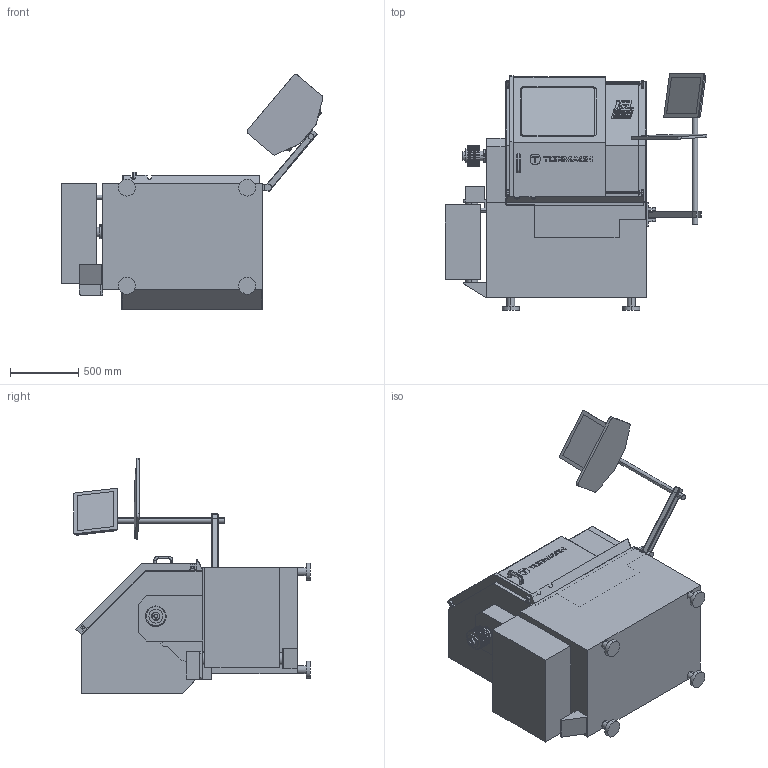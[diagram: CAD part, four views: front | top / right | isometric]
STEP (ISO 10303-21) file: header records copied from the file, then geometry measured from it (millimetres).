
FILE_DESCRIPTION (( 'STEP AP214' ), '1' );
FILE_NAME ('34444-CAM-A.STEP', '2024-05-15T22:07:54', ( '' ), ( '' ), 'SwSTEP 2.0', 'SolidWorks 2022', '' );
FILE_SCHEMA (( 'AUTOMOTIVE_DESIGN' ));
Length unit declared in the file: millimetre
Products named in the file (13): 34444-CAM-A; 50610-CAM; 34947-CAM; 33203-CAM; 34243-CAM; 33156-CAM; 35990-CAM; 34164-CAM; 34356-CAM; 34129-CAM; 34220-CAM; 33204-CAM; 38252-CAM
Assembly tree (13 placements, depth 2):
  34444-CAM-A
    34356-CAM
    34164-CAM
    34220-CAM
    34243-CAM
    50610-CAM
    35990-CAM
    34129-CAM
    34947-CAM
    33203-CAM
    33204-CAM  x2
    38252-CAM
    33156-CAM
Bounding box: 1924.01 x 1736.32 x 1727.61 mm (x, y, z)
Volume: 742369501.6 mm3; surface area: 22250313.1 mm2
Topology: 70 solids, 70 shells, 3009 faces, 7647 edges, 4852 vertices
Faces by surface type: plane 1580, cylinder 738, cone 504, bspline 165, torus 12, sphere 10
Entity records: 102163 total; most frequent: CARTESIAN_POINT 22092, ORIENTED_EDGE 14652, DIRECTION 14141, EDGE_CURVE 7326, LINE 4781, VECTOR 4781, VERTEX_POINT 4761, AXIS2_PLACEMENT_3D 4680
